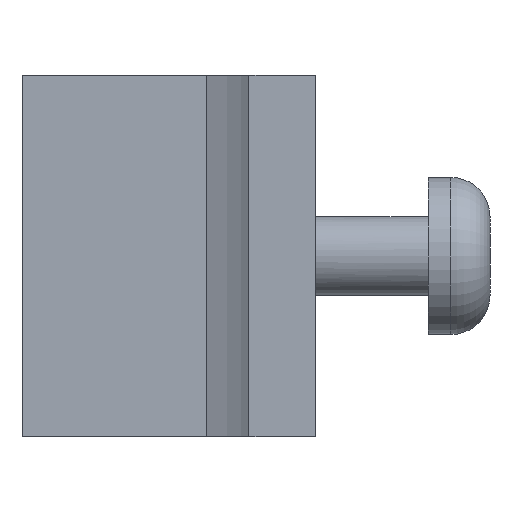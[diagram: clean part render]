
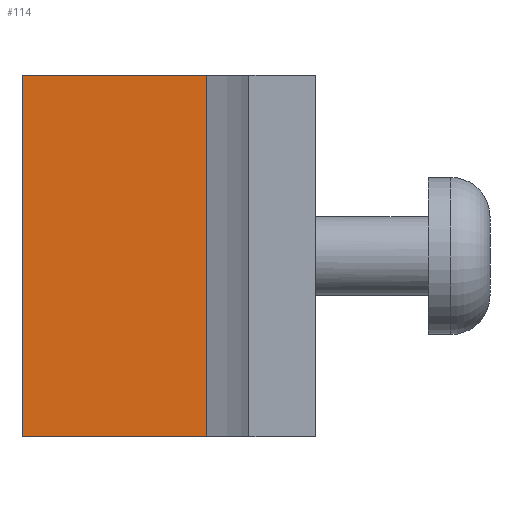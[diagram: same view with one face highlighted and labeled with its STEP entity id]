
A CAD part, front view. The second image highlights one B-rep face of the part: STEP entity #114.
In plain terms, the highlighted planar face has unit normal (0, -1, 0).
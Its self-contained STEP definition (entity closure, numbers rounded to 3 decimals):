
#114 = ADVANCED_FACE( '', ( #249 ), #250, .F. );
#249 = FACE_OUTER_BOUND( '', #400, .T. );
#250 = PLANE( '', #401 );
#400 = EDGE_LOOP( '', ( #700, #701, #702, #703 ) );
#401 = AXIS2_PLACEMENT_3D( '', #704, #705, #706 );
#700 = ORIENTED_EDGE( '', *, *, #1002, .T. );
#701 = ORIENTED_EDGE( '', *, *, #976, .F. );
#702 = ORIENTED_EDGE( '', *, *, #980, .F. );
#703 = ORIENTED_EDGE( '', *, *, #1003, .T. );
#704 = CARTESIAN_POINT( '', ( -3.07, -6.65, 4.6 ) );
#705 = DIRECTION( '', ( 0., 1., 0. ) );
#706 = DIRECTION( '', ( 0., 0., 1. ) );
#976 = EDGE_CURVE( '', #1199, #1194, #1201, .T. );
#980 = EDGE_CURVE( '', #1205, #1199, #1207, .T. );
#1002 = EDGE_CURVE( '', #1239, #1194, #1240, .T. );
#1003 = EDGE_CURVE( '', #1205, #1239, #1241, .T. );
#1194 = VERTEX_POINT( '', #1608 );
#1199 = VERTEX_POINT( '', #1614 );
#1201 = LINE( '', #1616, #1617 );
#1205 = VERTEX_POINT( '', #1622 );
#1207 = LINE( '', #1624, #1625 );
#1239 = VERTEX_POINT( '', #1670 );
#1240 = LINE( '', #1671, #1672 );
#1241 = LINE( '', #1673, #1674 );
#1608 = CARTESIAN_POINT( '', ( 1.62, -6.65, -4.6 ) );
#1614 = CARTESIAN_POINT( '', ( 1.62, -6.65, 4.6 ) );
#1616 = CARTESIAN_POINT( '', ( 1.62, -6.65, 4.6 ) );
#1617 = VECTOR( '', #1850, 1000. );
#1622 = CARTESIAN_POINT( '', ( -3.07, -6.65, 4.6 ) );
#1624 = CARTESIAN_POINT( '', ( -3.07, -6.65, 4.6 ) );
#1625 = VECTOR( '', #1855, 1000. );
#1670 = CARTESIAN_POINT( '', ( -3.07, -6.65, -4.6 ) );
#1671 = CARTESIAN_POINT( '', ( -3.07, -6.65, -4.6 ) );
#1672 = VECTOR( '', #1878, 1000. );
#1673 = CARTESIAN_POINT( '', ( -3.07, -6.65, 4.6 ) );
#1674 = VECTOR( '', #1879, 1000. );
#1850 = DIRECTION( '', ( 0., 0., -1. ) );
#1855 = DIRECTION( '', ( 1., 0., 0. ) );
#1878 = DIRECTION( '', ( 1., 0., 0. ) );
#1879 = DIRECTION( '', ( 0., 0., -1. ) );
